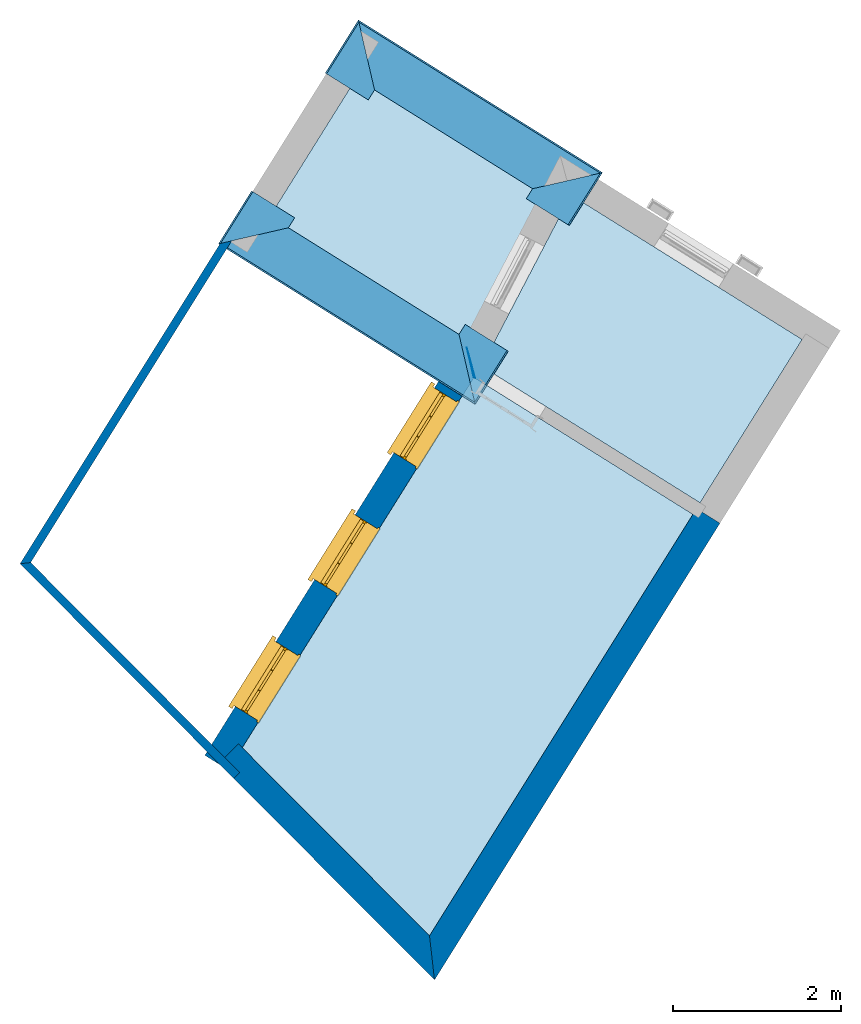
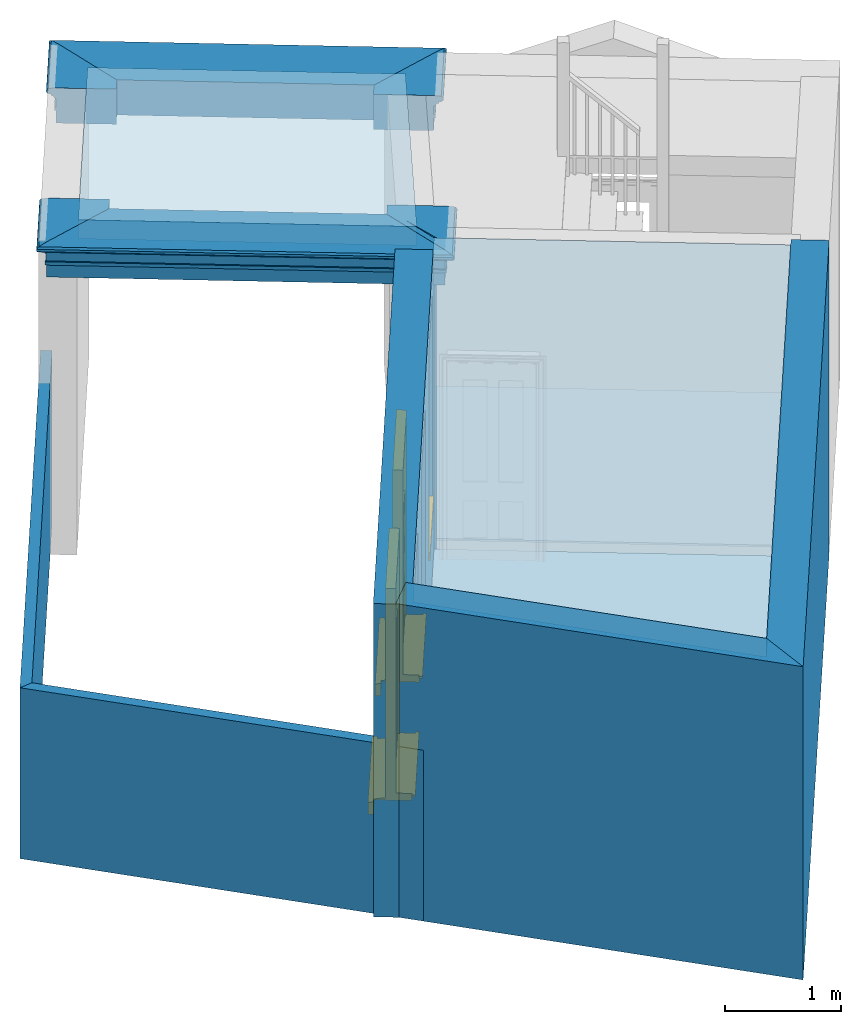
# One storey, part 1 of 5: 6 beams, 6 walls, 4 slabs, 3 windows, 3 openings.
"""IFC4 building model written with IfcOpenShell, lengths in metres."""

from ifc_helpers import new_model, si_unit, frame, origin, origin_with_axes, place, context, subcontext, project, spatial, polyline, outline, extrude, clip, halfspace, faceted_brep, source, transform, mapped, material, layer, layer_set, layer_usage, material_profile, profile_set, profile_usage, type_object, type_shapes, element, fill, save


model = new_model("IFC4")

# Units and contexts
model_context = context("Model", 3, world=origin_with_axes())
body_context = subcontext(model_context, "Body", "Model", "MODEL_VIEW")
ifc_project = project(units=[si_unit("PLANEANGLEUNIT", "RADIAN"), si_unit("MASSUNIT", "GRAM", prefix="KILO"), si_unit("FORCEUNIT", "NEWTON", prefix="KILO"), si_unit("LENGTHUNIT", "METRE"), si_unit("AREAUNIT", "SQUARE_METRE"), si_unit("VOLUMEUNIT", "CUBIC_METRE")], contexts=[model_context, model_context])

# Sites, building, storey
site_1_placement = place(None, origin_with_axes())
site_1 = spatial("IfcSite", under=ifc_project, at=site_1_placement, Name="Tamar")
site_2_placement = place(site_1_placement, origin_with_axes())
site_2 = spatial("IfcSite", under=site_1, at=site_2_placement, Name="Site plot-3", CompositionType="ELEMENT")
building_placement = place(None, origin_with_axes())
building = spatial("IfcBuilding", under=site_2, at=building_placement, Name="Building plot-3", CompositionType="ELEMENT")
storey_placement = place(None, frame((0.0, 0.0, 24.5), z_axis=(0.0, 0.0, 1.0), x_axis=(1.0, 0.0, 0.0)))
storey = spatial("IfcBuildingStorey", under=building, at=storey_placement, Name="plot-3 0", CompositionType="ELEMENT", Elevation=24.5)

# Beams
ifc_material_profile_1 = material_profile(None, outline(polyline([(-0.26, 0.0), (-0.26, -0.37), (0.26, -0.37), (0.26, -0.235), (0.275, -0.235), (0.275, -0.2), (0.26, -0.2), (0.26, -0.11), (0.275, -0.11), (0.278, -0.098), (0.284, -0.089), (0.293, -0.083), (0.305, -0.08), (0.305, -0.065), (0.315, -0.065), (0.326, -0.063), (0.336, -0.056), (0.343, -0.047), (0.345, -0.035), (0.343, -0.023), (0.336, -0.014), (0.326, -0.007), (0.315, -0.005), (0.26, 0.0), (-0.26, 0.0)])))
ifc_profile_set_1 = profile_set([ifc_material_profile_1])
ifc_profile_usage_1 = profile_usage(ifc_profile_set_1)
beam_type_1 = type_object("IfcBeamType", Name="external beam_0", PredefinedType="NOTDEFINED", material=ifc_profile_set_1)
beam_1_placement = place(storey_placement, frame((213.21499929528, 286.80804798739, 3.3), z_axis=(0.53002650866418, 0.847981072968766, 0.0), x_axis=(-0.847981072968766, 0.53002650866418, 0.0)))
element("IfcBeam", 1, at=beam_1_placement, inside=storey, type_object=beam_type_1, material=ifc_profile_usage_1, Name="external beam_0", context=body_context, shape_type="Clipping", body=[
    clip(clip(extrude(outline(polyline([(-0.26, 0.0), (-0.26, -0.37), (0.26, -0.37), (0.26, -0.235), (0.275, -0.235), (0.275, -0.2), (0.26, -0.2), (0.26, -0.11), (0.275, -0.11), (0.278, -0.098), (0.284, -0.089), (0.293, -0.083), (0.305, -0.08), (0.305, -0.065), (0.315, -0.065), (0.326, -0.063), (0.336, -0.056), (0.343, -0.047), (0.345, -0.035), (0.343, -0.023), (0.336, -0.014), (0.326, -0.007), (0.315, -0.005), (0.26, 0.0), (-0.26, 0.0)])), origin_with_axes(), (0.0, 0.0, 1.0), 2.4), halfspace(frame((0.0, 0.0, 1.4), z_axis=(2.48077634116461e-14, 0.0, -1.0), x_axis=(0.0, 1.0, 0.0)), True)), halfspace(frame((0.0, 0.0, 1.0), z_axis=(-0.707106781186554, 0.0, -0.70710678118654), x_axis=(0.0, 1.0, 0.0)), False)),
])
ifc_profile_usage_2 = profile_usage(ifc_profile_set_1)
beam_2_placement = place(storey_placement, frame((217.067121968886, 285.579568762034, 3.3), z_axis=(-0.84798107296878, 0.530026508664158, 0.0), x_axis=(-0.530026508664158, -0.84798107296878, 0.0)))
element("IfcBeam", 2, at=beam_2_placement, inside=storey, type_object=beam_type_1, material=ifc_profile_usage_2, Name="external beam_0", context=body_context, shape_type="Clipping", body=[
    clip(clip(extrude(outline(polyline([(-0.26, 0.0), (-0.26, -0.37), (0.26, -0.37), (0.26, -0.235), (0.275, -0.235), (0.275, -0.2), (0.26, -0.2), (0.26, -0.11), (0.275, -0.11), (0.278, -0.098), (0.284, -0.089), (0.293, -0.083), (0.305, -0.08), (0.305, -0.065), (0.315, -0.065), (0.326, -0.063), (0.336, -0.056), (0.343, -0.047), (0.345, -0.035), (0.343, -0.023), (0.336, -0.014), (0.326, -0.007), (0.315, -0.005), (0.26, 0.0), (-0.26, 0.0)])), origin_with_axes(), (0.0, 0.0, 1.0), 4.91765367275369), halfspace(frame((0.0, 0.0, 3.91765367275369), z_axis=(0.707106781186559, 0.0, -0.707106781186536), x_axis=(0.0, 1.0, 0.0)), True)), halfspace(frame((0.0, 0.0, 1.0), z_axis=(-0.707106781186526, 0.0, -0.707106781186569), x_axis=(0.0, 1.0, 0.0)), False)),
])
ifc_profile_usage_3 = profile_usage(ifc_profile_set_1)
beam_3_placement = place(storey_placement, frame((216.961178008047, 287.296768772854, 3.3), z_axis=(-0.53002650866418, -0.847981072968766, 0.0), x_axis=(0.847981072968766, -0.53002650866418, 0.0)))
element("IfcBeam", 3, at=beam_3_placement, inside=storey, type_object=beam_type_1, material=ifc_profile_usage_3, Name="external beam_0", context=body_context, shape_type="Clipping", body=[
    clip(clip(extrude(outline(polyline([(-0.26, 0.0), (-0.26, -0.37), (0.26, -0.37), (0.26, -0.235), (0.275, -0.235), (0.275, -0.2), (0.26, -0.2), (0.26, -0.11), (0.275, -0.11), (0.278, -0.098), (0.284, -0.089), (0.293, -0.083), (0.305, -0.08), (0.305, -0.065), (0.315, -0.065), (0.326, -0.063), (0.336, -0.056), (0.343, -0.047), (0.345, -0.035), (0.343, -0.023), (0.336, -0.014), (0.326, -0.007), (0.315, -0.005), (0.26, 0.0), (-0.26, 0.0)])), origin_with_axes(), (0.0, 0.0, 1.0), 2.4), halfspace(frame((0.0, 0.0, 1.4), z_axis=(0.707106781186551, 0.0, -0.707106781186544), x_axis=(0.0, 1.0, 0.0)), True)), halfspace(frame((0.0, 0.0, 1.0), z_axis=(2.4141629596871e-14, 0.0, -1.0), x_axis=(0.0, 1.0, 0.0)), False)),
])
ifc_material_profile_2 = material_profile(None, outline(polyline([(-0.26, 0.0), (-0.26, -0.37), (0.26, -0.37), (0.26, -0.235), (0.275, -0.235), (0.275, -0.2), (0.26, -0.2), (0.26, -0.11), (0.275, -0.11), (0.278, -0.098), (0.284, -0.089), (0.293, -0.083), (0.305, -0.08), (0.305, -0.065), (0.315, -0.065), (0.326, -0.063), (0.336, -0.056), (0.343, -0.047), (0.345, -0.035), (0.343, -0.023), (0.336, -0.014), (0.326, -0.007), (0.315, -0.005), (0.26, 0.0), (-0.26, 0.0)])))
ifc_profile_set_2 = profile_set([ifc_material_profile_2])
ifc_profile_usage_4 = profile_usage(ifc_profile_set_2)
beam_type_2 = type_object("IfcBeamType", Name="external beam_0", PredefinedType="NOTDEFINED", material=ifc_profile_set_2)
beam_4_placement = place(storey_placement, frame((217.900929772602, 289.134511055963, 3.3), z_axis=(-0.530026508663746, -0.847981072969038, 0.0), x_axis=(0.847981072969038, -0.530026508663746, 0.0)))
element("IfcBeam", 4, at=beam_4_placement, inside=storey, type_object=beam_type_2, material=ifc_profile_usage_4, Name="external beam_0", context=body_context, shape_type="Clipping", body=[
    clip(clip(extrude(outline(polyline([(-0.26, 0.0), (-0.26, -0.37), (0.26, -0.37), (0.26, -0.235), (0.275, -0.235), (0.275, -0.2), (0.26, -0.2), (0.26, -0.11), (0.275, -0.11), (0.278, -0.098), (0.284, -0.089), (0.293, -0.083), (0.305, -0.08), (0.305, -0.065), (0.315, -0.065), (0.326, -0.063), (0.336, -0.056), (0.343, -0.047), (0.345, -0.035), (0.343, -0.023), (0.336, -0.014), (0.326, -0.007), (0.315, -0.005), (0.26, 0.0), (-0.26, 0.0)])), origin_with_axes(), (0.0, 0.0, 1.0), 2.40000000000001), halfspace(frame((0.0, 0.0, 1.40000000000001), z_axis=(1.60812264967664e-16, 0.0, -1.0), x_axis=(0.0, 1.0, 0.0)), True)), halfspace(frame((0.0, 0.0, 1.0), z_axis=(-0.70710678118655, 0.0, -0.707106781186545), x_axis=(0.0, 1.0, 0.0)), False)),
])
ifc_profile_usage_5 = profile_usage(ifc_profile_set_2)
beam_5_placement = place(storey_placement, frame((214.199035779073, 290.269090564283, 3.3), z_axis=(0.847981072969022, -0.530026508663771, 0.0), x_axis=(0.530026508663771, 0.847981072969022, 0.0)))
element("IfcBeam", 5, at=beam_5_placement, inside=storey, type_object=beam_type_2, material=ifc_profile_usage_5, Name="external beam_0", context=body_context, shape_type="Clipping", body=[
    clip(clip(extrude(outline(polyline([(-0.26, 0.0), (-0.26, -0.37), (0.26, -0.37), (0.26, -0.235), (0.275, -0.235), (0.275, -0.2), (0.26, -0.2), (0.26, -0.11), (0.275, -0.11), (0.278, -0.098), (0.284, -0.089), (0.293, -0.083), (0.305, -0.08), (0.305, -0.065), (0.315, -0.065), (0.326, -0.063), (0.336, -0.056), (0.343, -0.047), (0.345, -0.035), (0.343, -0.023), (0.336, -0.014), (0.326, -0.007), (0.315, -0.005), (0.26, 0.0), (-0.26, 0.0)])), origin_with_axes(), (0.0, 0.0, 1.0), 4.74049325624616), halfspace(frame((0.0, 0.0, 3.74049325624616), z_axis=(0.707106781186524, 0.0, -0.707106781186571), x_axis=(0.0, 1.0, 0.0)), True)), halfspace(frame((0.0, 0.0, 1.0), z_axis=(-0.707106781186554, 0.0, -0.707106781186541), x_axis=(0.0, 1.0, 0.0)), False)),
])
ifc_profile_usage_6 = profile_usage(ifc_profile_set_2)
beam_6_placement = place(storey_placement, frame((214.304979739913, 288.551890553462, 3.3), z_axis=(0.530026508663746, 0.847981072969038, 0.0), x_axis=(-0.847981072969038, 0.530026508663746, 0.0)))
element("IfcBeam", 6, at=beam_6_placement, inside=storey, type_object=beam_type_2, material=ifc_profile_usage_6, Name="external beam_0", context=body_context, shape_type="Clipping", body=[
    clip(clip(extrude(outline(polyline([(-0.26, 0.0), (-0.26, -0.37), (0.26, -0.37), (0.26, -0.235), (0.275, -0.235), (0.275, -0.2), (0.26, -0.2), (0.26, -0.11), (0.275, -0.11), (0.278, -0.098), (0.284, -0.089), (0.293, -0.083), (0.305, -0.08), (0.305, -0.065), (0.315, -0.065), (0.326, -0.063), (0.336, -0.056), (0.343, -0.047), (0.345, -0.035), (0.343, -0.023), (0.336, -0.014), (0.326, -0.007), (0.315, -0.005), (0.26, 0.0), (-0.26, 0.0)])), origin_with_axes(), (0.0, 0.0, 1.0), 2.40000000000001), halfspace(frame((0.0, 0.0, 1.40000000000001), z_axis=(0.707106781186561, 0.0, -0.707106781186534), x_axis=(0.0, 1.0, 0.0)), True)), halfspace(frame((0.0, 0.0, 1.0), z_axis=(-6.12323399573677e-17, 0.0, -1.0), x_axis=(0.0, 1.0, 0.0)), False)),
])

# Slabs
slab_1_placement = place(storey_placement, frame((216.312415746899, 285.956952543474, 3.1)))
element("IfcSlab", 7, at=slab_1_placement, inside=storey, Name="My Slab", ObjectType="Slab", PredefinedType="FLOOR", context=body_context, shape_type="SweptSolid", body=[
    extrude(outline(polyline([(0.0, 0.0), (-2.75923932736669, -4.414463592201), (-0.527781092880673, -6.65516845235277), (2.61166919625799, -1.63241132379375), (0.0, 0.0)])), origin_with_axes(), (0.0, 0.0, 1.0), 0.2),
])
slab_2_placement = place(storey_placement, frame((216.312415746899, 285.956952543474, 0.0)))
element("IfcSlab", 8, at=slab_2_placement, inside=storey, Name="My Slab", ObjectType="Slab", PredefinedType="FLOOR", context=body_context, shape_type="SweptSolid", body=[
    extrude(outline(polyline([(0.0, 0.0), (-2.75923932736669, -4.414463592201), (-0.527781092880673, -6.65516845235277), (2.61166919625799, -1.63241132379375), (0.0, 0.0)])), origin_with_axes(), (0.0, 0.0, 1.0), 0.02),
])
slab_3_placement = place(storey_placement, frame((217.333583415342, 288.215514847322, 3.1)))
element("IfcSlab", 9, at=slab_3_placement, inside=storey, Name="My Slab", ObjectType="Slab", PredefinedType="FLOOR", context=body_context, shape_type="SweptSolid", body=[
    extrude(outline(polyline([(0.0, 0.0), (-2.32896868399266, 1.45571072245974), (-3.54615549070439, -0.49164730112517), (-1.06538868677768, -2.04223871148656), (0.0, 0.0)])), origin_with_axes(), (0.0, 0.0, 1.0), 0.2),
])
slab_4_placement = place(storey_placement, frame((217.469671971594, 288.130453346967, 0.0)))
element("IfcSlab", 10, at=slab_4_placement, inside=storey, Name="My Slab", ObjectType="Slab", PredefinedType="FLOOR", context=body_context, shape_type="SweptSolid", body=[
    extrude(outline(polyline([(0.0, 0.0), (-1.06538868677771, -2.04223871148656), (1.53921721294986, -3.67023515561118), (2.75640401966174, -1.7228771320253), (0.0, 0.0)])), origin_with_axes(), (0.0, 0.0, 1.0), 0.02),
])

# Wall
ifc_material_1 = material(Name="Masonry")
ifc_layer_1 = layer(ifc_material_1, 0.33, ventilated=False)
ifc_layer_set_1 = layer_set([ifc_layer_1], Name="exterior_0.08_0.25")
ifc_layer_usage_1 = layer_usage(ifc_layer_set_1, "AXIS2", "POSITIVE", -0.25)
wall_type_1 = type_object("IfcWallType", Name="exterior_0.08_0.25", PredefinedType="SOLIDWALL", material=ifc_layer_set_1)
wall_1_placement = place(storey_placement, frame((216.299124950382, 286.059601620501, 0.0), z_axis=(0.0, 0.0, 1.0), x_axis=(-0.847981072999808, 0.530026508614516, 0.0)))
element("IfcWall", 11, at=wall_1_placement, inside=storey, type_object=wall_type_1, material=ifc_layer_usage_1, Name="exterior", context=body_context, shape_type="SweptSolid", body=[
    extrude(outline(polyline([(-0.0864787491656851, 0.0799999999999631), (0.270246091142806, -0.249999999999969), (0.264322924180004, -0.250000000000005), (-0.0656770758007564, 0.0799999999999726), (-0.0864787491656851, 0.0799999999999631)])), origin_with_axes(), (0.0, 0.0, 1.0), 3.3),
])

# Wall, openings, windows
wall_2_placement = place(storey_placement, frame((216.286979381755, 286.067193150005, 0.0), z_axis=(0.0, 0.0, 1.0), x_axis=(-0.530026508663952, -0.847981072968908, 0.0)))
wall_2 = element("IfcWall", 12, at=wall_2_placement, inside=storey, type_object=wall_type_1, material=ifc_layer_usage_1, Name="exterior", context=body_context, shape_type="SweptSolid", body=[
    extrude(outline(polyline([(0.0799999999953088, 0.0799999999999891), (-0.24999999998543, -0.25000000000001), (5.59935975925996, -0.249999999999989), (5.59935975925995, 0.0800000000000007), (0.0799999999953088, 0.0799999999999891)])), origin_with_axes(), (0.0, 0.0, 1.0), 3.3),
])
opening_1_placement = place(wall_2_placement, frame((0.436559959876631, 0.0, 0.75)))
opening_1 = element("IfcOpeningElement", 13, at=opening_1_placement, cuts=wall_2, Name="My Opening", ObjectType="Opening", context=body_context, shape_type="SweptSolid", body=[
    extrude(outline(polyline([(0.0, -0.270000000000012), (0.910000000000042, -0.270000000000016), (0.910000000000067, 1.10000000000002), (2.54241072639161e-14, 1.10000000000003), (0.0, -0.270000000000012)])), origin_with_axes(), (0.0, 0.0, 1.0), 2.23),
])
opening_2_placement = place(wall_2_placement, frame((2.21967987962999, 0.0, 0.75)))
opening_2 = element("IfcOpeningElement", 14, at=opening_2_placement, cuts=wall_2, Name="My Opening", ObjectType="Opening", context=body_context, shape_type="SweptSolid", body=[
    extrude(outline(polyline([(0.0, -0.269999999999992), (0.909999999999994, -0.270000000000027), (0.91000000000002, 1.10000000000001), (2.57571741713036e-14, 1.10000000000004), (0.0, -0.269999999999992)])), origin_with_axes(), (0.0, 0.0, 1.0), 2.23),
])
opening_3_placement = place(wall_2_placement, frame((4.00279979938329, 0.0, 0.75)))
opening_3 = element("IfcOpeningElement", 15, at=opening_3_placement, cuts=wall_2, Name="My Opening", ObjectType="Opening", context=body_context, shape_type="SweptSolid", body=[
    extrude(outline(polyline([(0.0, -0.270000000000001), (0.910000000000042, -0.270000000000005), (0.910000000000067, 1.10000000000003), (2.57571741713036e-14, 1.10000000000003), (0.0, -0.270000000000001)])), origin_with_axes(), (0.0, 0.0, 1.0), 2.23),
])
window_type = type_object("IfcWindowType", Name="sash_big_taller", PartitioningType="DOUBLE_PANEL_HORIZONTAL", PredefinedType="NOTDEFINED")
shared_shape = source(origin(), body_context, "Body", "Brep", [
    faceted_brep([(0.033125, 0.145, 1.385209), (0.01, 0.145, 1.385209), (0.033125, 0.145, 1.786042), (0.876875, 0.145, 1.385209), (0.876875, 0.145, 1.786042), (0.9, 0.145, 1.385209), (0.876875, 0.145, 1.796042), (0.876875, 0.145, 2.196875), (0.9, 0.145, 2.22), (0.033125, 0.145, 2.196875), (0.033125, 0.145, 1.796042), (0.01, 0.145, 2.22), (0.876875, 0.115, 1.786042), (0.876875, 0.115, 1.385209), (0.9, 0.115, 1.347084), (0.033125, 0.115, 2.196875), (0.01, 0.115, 2.22), (0.033125, 0.115, 1.796042), (0.01, 0.115, 1.347084), (0.033125, 0.115, 1.385209), (0.033125, 0.115, 1.786042), (0.876875, 0.115, 2.196875), (0.876875, 0.115, 1.796042), (0.9, 0.115, 2.22), (0.033125, 0.145, 1.347084), (0.01, 0.145, 1.347084), (0.033125, 0.145, 0.94625), (0.876875, 0.145, 1.347084), (0.876875, 0.145, 0.94625), (0.9, 0.145, 1.347084), (0.876875, 0.145, 0.52625), (0.876875, 0.145, 0.125417), (0.9, 0.145, 0.077167), (0.033125, 0.145, 0.125417), (0.033125, 0.145, 0.52625), (0.01, 0.145, 0.077167), (-0.0425, 0.0, 0.01), (-0.0425, -0.05, 0.001667), (0.0, 0.0, 0.01), (0.9525, 0.0, 0.01), (0.91, 0.0, 0.01), (0.9525, -0.05, 0.001667), (-0.02, 0.33, 0.077167), (0.0, 0.33, 0.077167), (-0.02, 0.36, 0.077167), (0.0, 0.19, 0.077167), (0.01, 0.19, 0.077167), (0.91, 0.19, 0.077167), (0.91, 0.33, 0.077167), (0.9, 0.19, 0.077167), (0.93, 0.33, 0.077167), (0.93, 0.36, 0.077167), (0.01, 0.175, 1.385209), (0.9, 0.175, 1.385209), (0.876875, 0.175, 0.125417), (0.876875, 0.175, 0.52625), (0.9, 0.175, 0.077167), (0.876875, 0.175, 0.94625), (0.876875, 0.175, 1.347084), (0.033125, 0.175, 0.125417), (0.01, 0.175, 0.077167), (0.033125, 0.175, 0.52625), (0.033125, 0.175, 1.347084), (0.033125, 0.175, 0.94625), (-0.02, 0.33, 0.052167), (-0.02, 0.36, 0.052167), (0.93, 0.36, 0.052167), (0.93, 0.33, 0.052167), (0.91, 0.33, 0.052167), (0.0, 0.33, 0.052167), (0.91, 0.1, 0.026667), (0.0, 0.1, 0.026667), (-0.0425, -0.05, -0.123333), (0.9525, -0.05, -0.123333), (-0.0425, 0.0, -0.123333), (0.9525, 0.0, -0.123333), (0.01, 0.19, 2.22), (0.9, 0.19, 2.22), (0.0, 0.19, 2.23), (0.91, 0.19, 2.23), (0.01, 0.1, 0.077167), (0.9, 0.1, 0.077167), (0.592292, 0.145, 0.125417), (0.592292, 0.175, 0.125417), (0.317708, 0.175, 0.125417), (0.317708, 0.145, 0.125417), (0.592292, 0.145, 0.53625), (0.317708, 0.145, 0.53625), (0.317708, 0.145, 0.52625), (0.592292, 0.145, 0.52625), (0.592292, 0.175, 0.53625), (0.317708, 0.175, 0.53625), (0.592292, 0.115, 1.796042), (0.592292, 0.145, 1.796042), (0.317708, 0.145, 1.796042), (0.317708, 0.115, 1.796042), (0.317708, 0.115, 1.786042), (0.592292, 0.115, 1.786042), (0.317708, 0.145, 1.786042), (0.592292, 0.145, 1.786042), (0.602292, 0.115, 1.786042), (0.592292, 0.115, 1.385209), (0.602292, 0.115, 1.385209), (0.602292, 0.145, 1.385209), (0.592292, 0.145, 1.385209), (0.602292, 0.145, 1.786042), (0.876875, 0.145, 0.53625), (0.876875, 0.175, 0.53625), (0.602292, 0.175, 0.53625), (0.602292, 0.145, 0.53625), (0.317708, 0.175, 0.52625), (0.307708, 0.175, 0.125417), (0.307708, 0.175, 0.52625), (0.602292, 0.175, 0.52625), (0.602292, 0.175, 0.125417), (0.592292, 0.175, 0.52625), (0.307708, 0.175, 0.53625), (0.033125, 0.175, 0.53625), (0.317708, 0.175, 1.347084), (0.317708, 0.175, 0.94625), (0.307708, 0.175, 0.94625), (0.307708, 0.175, 1.347084), (0.602292, 0.175, 1.347084), (0.602292, 0.175, 0.94625), (0.592292, 0.175, 0.94625), (0.592292, 0.175, 1.347084), (0.307708, 0.145, 0.52625), (0.307708, 0.145, 0.125417), (0.307708, 0.145, 0.53625), (0.033125, 0.145, 0.53625), (0.307708, 0.145, 1.347084), (0.307708, 0.145, 0.94625), (0.592292, 0.145, 1.347084), (0.592292, 0.145, 0.94625), (0.317708, 0.145, 0.94625), (0.317708, 0.145, 1.347084), (0.602292, 0.145, 0.94625), (0.602292, 0.145, 1.347084), (0.602292, 0.145, 0.52625), (0.602292, 0.145, 0.125417), (0.307708, 0.115, 1.796042), (0.307708, 0.115, 1.786042), (0.307708, 0.115, 1.385209), (0.317708, 0.115, 1.385209), (0.317708, 0.115, 2.196875), (0.307708, 0.115, 2.196875), (0.602292, 0.115, 2.196875), (0.592292, 0.115, 2.196875), (0.602292, 0.115, 1.796042), (0.602292, 0.145, 1.796042), (0.307708, 0.145, 1.796042), (0.307708, 0.145, 2.196875), (0.317708, 0.145, 2.196875), (0.592292, 0.145, 2.196875), (0.602292, 0.145, 2.196875), (0.307708, 0.145, 1.786042), (0.317708, 0.145, 1.385209), (0.307708, 0.145, 1.385209), (0.876875, 0.175, 0.93625), (0.033125, 0.175, 0.93625), (0.033125, 0.145, 0.93625), (0.876875, 0.145, 0.93625), (0.91, 0.1, 2.23), (0.9, 0.1, 2.22), (0.01, 0.1, 2.22), (0.0, 0.1, 2.23), (0.91, 0.0, 0.0), (0.0, 0.0, 0.0), (0.91, 0.33, 0.0), (0.0, 0.33, 0.0), (0.317708, 0.145, 0.93625), (0.592292, 0.145, 0.93625), (0.317708, 0.175, 0.93625), (0.307708, 0.175, 0.93625), (0.602292, 0.175, 0.93625), (0.592292, 0.175, 0.93625), (0.307708, 0.145, 0.93625), (0.602292, 0.145, 0.93625)], [[[0, 1, 2]], [[3, 4, 5]], [[6, 7, 8]], [[9, 10, 11]], [[12, 13, 14]], [[15, 16, 17]], [[18, 19, 20]], [[21, 22, 23]], [[24, 25, 26]], [[27, 28, 29]], [[30, 31, 32]], [[33, 34, 35]], [[14, 27, 29]], [[25, 24, 18]], [[36, 37, 38]], [[39, 40, 41]], [[42, 43, 44]], [[45, 46, 43]], [[47, 48, 49]], [[50, 51, 48]], [[1, 0, 52]], [[5, 53, 3]], [[54, 55, 56]], [[57, 58, 53]], [[59, 60, 61]], [[62, 63, 52]], [[48, 43, 46, 49]], [[51, 44, 43, 48]], [[64, 42, 44, 65]], [[65, 44, 51, 66]], [[66, 51, 50, 67]], [[65, 66, 68, 69]], [[60, 56, 49, 46]], [[70, 71, 38, 40]], [[37, 41, 40, 38]], [[37, 72, 73, 41]], [[74, 75, 73, 72]], [[8, 11, 76, 77]], [[76, 78, 79, 77]], [[32, 35, 80, 81]], [[81, 80, 71, 70]], [[82, 83, 84, 85]], [[86, 87, 88, 89]], [[86, 90, 91, 87]], [[92, 93, 94, 95]], [[92, 95, 96, 97]], [[96, 98, 99, 97]], [[100, 97, 101, 102]], [[103, 104, 99, 105]], [[97, 99, 104, 101]], [[102, 103, 105, 100]], [[106, 107, 108, 109]], [[110, 84, 111, 112]], [[113, 114, 83, 115]], [[116, 112, 61, 117]], [[90, 115, 110, 91]], [[118, 119, 120, 121]], [[122, 123, 124, 125]], [[113, 108, 107, 55]], [[126, 112, 111, 127]], [[34, 61, 112, 126]], [[89, 115, 83, 82]], [[88, 110, 115, 89]], [[85, 84, 110, 88]], [[128, 116, 117, 129]], [[130, 121, 120, 131]], [[132, 125, 124, 133]], [[134, 119, 118, 135]], [[136, 123, 122, 137]], [[138, 113, 55, 30]], [[139, 114, 113, 138]], [[138, 30, 106, 109]], [[88, 126, 127, 85]], [[138, 89, 82, 139]], [[137, 132, 133, 136]], [[128, 129, 34, 126]], [[135, 130, 131, 134]], [[140, 17, 20, 141]], [[96, 141, 142, 143]], [[144, 145, 140, 95]], [[146, 147, 92, 148]], [[100, 12, 22, 148]], [[149, 6, 4, 105]], [[94, 150, 151, 152]], [[149, 93, 153, 154]], [[99, 98, 94, 93]], [[155, 2, 10, 150]], [[156, 157, 155, 98]], [[141, 155, 157, 142]], [[20, 2, 155, 141]], [[143, 156, 98, 96]], [[140, 150, 10, 17]], [[145, 151, 150, 140]], [[147, 153, 93, 92]], [[95, 94, 152, 144]], [[22, 6, 149, 148]], [[148, 149, 154, 146]], [[100, 105, 4, 12]], [[109, 86, 89, 138]], [[108, 113, 115, 90]], [[91, 110, 112, 116]], [[87, 128, 126, 88]], [[97, 100, 148, 92]], [[141, 96, 95, 140]], [[98, 155, 150, 94]], [[105, 99, 93, 149]], [[143, 101, 104, 156]], [[135, 118, 125, 132]], [[144, 152, 153, 147]], [[127, 111, 59, 33]], [[15, 9, 151, 145]], [[146, 154, 7, 21]], [[31, 54, 114, 139]], [[36, 74, 72, 37]], [[39, 41, 73, 75]], [[18, 14, 101, 143]], [[23, 16, 144, 147]], [[83, 56, 60, 84]], [[52, 53, 125, 118]], [[53, 52, 156, 104]], [[11, 8, 153, 152]], [[14, 18, 135, 132]], [[2, 1, 11, 10]], [[8, 5, 4, 6]], [[57, 53, 56, 158]], [[60, 52, 63, 159]], [[26, 25, 35, 160]], [[32, 29, 28, 161]], [[14, 23, 22, 12]], [[18, 20, 17, 16]], [[19, 0, 2, 20]], [[17, 10, 9, 15]], [[12, 4, 3, 13]], [[21, 7, 6, 22]], [[27, 58, 57, 28]], [[30, 55, 54, 31]], [[33, 59, 61, 34]], [[26, 63, 62, 24]], [[5, 8, 77, 53]], [[76, 11, 1, 52]], [[46, 45, 78, 76]], [[49, 77, 79, 47]], [[70, 162, 163, 81]], [[71, 80, 164, 165]], [[19, 142, 157, 0]], [[102, 13, 3, 103]], [[121, 130, 24, 62]], [[29, 32, 81, 14]], [[80, 35, 25, 18]], [[60, 46, 76, 52]], [[77, 49, 56, 53]], [[23, 14, 81, 163]], [[16, 164, 80, 18]], [[35, 85, 127]], [[127, 33, 35]], [[139, 82, 32]], [[32, 31, 139]], [[32, 82, 85, 35]], [[102, 101, 14]], [[14, 13, 102]], [[18, 143, 142]], [[142, 19, 18]], [[146, 21, 23]], [[23, 147, 146]], [[16, 15, 145]], [[145, 144, 16]], [[11, 152, 151]], [[151, 9, 11]], [[154, 153, 8]], [[8, 7, 154]], [[23, 163, 164, 16]], [[162, 165, 164, 163]], [[52, 118, 121]], [[121, 62, 52]], [[125, 53, 122]], [[58, 122, 53]], [[27, 137, 122, 58]], [[56, 83, 114]], [[114, 54, 56]], [[111, 84, 60]], [[60, 59, 111]], [[137, 27, 14]], [[14, 132, 137]], [[130, 135, 18]], [[18, 24, 130]], [[157, 156, 52]], [[52, 0, 157]], [[103, 3, 53]], [[53, 104, 103]], [[79, 78, 165, 162]], [[78, 45, 71, 165]], [[162, 70, 47, 79]], [[166, 75, 74, 167]], [[68, 66, 67]], [[48, 68, 67, 50]], [[69, 64, 65]], [[42, 64, 69, 43]], [[69, 68, 168, 169]], [[70, 68, 48, 47]], [[166, 168, 68, 70]], [[43, 69, 71, 45]], [[69, 169, 167, 71]], [[168, 166, 167, 169]], [[38, 167, 74, 36]], [[71, 167, 38]], [[39, 75, 166, 40]], [[40, 166, 70]], [[133, 134, 170, 171]], [[133, 124, 119, 134]], [[28, 57, 123, 136]], [[172, 91, 116, 173]], [[174, 108, 90, 175]], [[120, 173, 159, 63]], [[124, 175, 172, 119]], [[174, 123, 57, 158]], [[176, 173, 116, 128]], [[160, 159, 173, 176]], [[171, 175, 90, 86]], [[170, 172, 175, 171]], [[87, 91, 172, 170]], [[131, 120, 63, 26]], [[177, 174, 158, 161]], [[109, 108, 174, 177]], [[177, 161, 28, 136]], [[170, 176, 128, 87]], [[177, 171, 86, 109]], [[131, 26, 160, 176]], [[136, 133, 171, 177]], [[123, 174, 175, 124]], [[119, 172, 173, 120]], [[134, 131, 176, 170]], [[129, 117, 159, 160]], [[161, 158, 107, 106]], [[35, 34, 129]], [[35, 129, 160]], [[32, 106, 30]], [[32, 161, 106]], [[56, 55, 107]], [[56, 107, 158]], [[60, 117, 61]], [[60, 159, 117]]]),
])
type_shapes(window_type, [shared_shape])
window_1_placement = place(storey_placement, frame((215.826636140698, 285.840105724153, 0.75), z_axis=(0.0, 0.0, 1.0), x_axis=(-0.482324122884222, -0.77166277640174, 0.0)))
window_1 = element("IfcWindow", 16, at=window_1_placement, inside=storey, type_object=window_type, Name="bedroom sahn window", OverallHeight=2.23, OverallWidth=0.91, context=body_context, shape_type="MappedRepresentation", body=[
    mapped(shared_shape, transform((0.0, 0.0, 0.0), scale=1.0)),
])
fill(opening_1, window_1)
window_2_placement = place(storey_placement, frame((214.881535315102, 284.328053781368, 0.75), z_axis=(0.0, 0.0, 1.0), x_axis=(-0.482324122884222, -0.771662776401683, 0.0)))
window_2 = element("IfcWindow", 17, at=window_2_placement, inside=storey, type_object=window_type, Name="bedroom sahn window", OverallHeight=2.23, OverallWidth=0.91, context=body_context, shape_type="MappedRepresentation", body=[
    mapped(shared_shape, transform((0.0, 0.0, 0.0), scale=1.0)),
])
fill(opening_2, window_2)
window_3_placement = place(storey_placement, frame((213.936434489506, 282.816001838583, 0.75), z_axis=(0.0, 0.0, 1.0), x_axis=(-0.482324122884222, -0.77166277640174, 0.0)))
window_3 = element("IfcWindow", 18, at=window_3_placement, inside=storey, type_object=window_type, Name="bedroom sahn window", OverallHeight=2.23, OverallWidth=0.91, context=body_context, shape_type="MappedRepresentation", body=[
    mapped(shared_shape, transform((0.0, 0.0, 0.0), scale=1.0)),
])
fill(opening_3, window_3)

# Walls
ifc_material_2 = material(Name="Masonry")
ifc_layer_2 = layer(ifc_material_2, 0.33, ventilated=False)
ifc_layer_set_2 = layer_set([ifc_layer_2], Name="party_0.08_0.25")
ifc_layer_usage_2 = layer_usage(ifc_layer_set_2, "AXIS2", "POSITIVE", -0.25)
wall_type_2 = type_object("IfcWallType", Name="party_0.08_0.25", PredefinedType="SOLIDWALL", material=ifc_layer_set_2)
wall_3_placement = place(storey_placement, frame((213.451676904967, 281.531037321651, 0.0), z_axis=(0.0, 0.0, 1.0), x_axis=(0.705643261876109, -0.70856727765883, 0.0)))
element("IfcWall", 19, at=wall_3_placement, inside=storey, type_object=wall_type_2, material=ifc_layer_usage_2, Name="party", context=body_context, shape_type="SweptSolid", body=[
    extrude(outline(polyline([(1.14801637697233e-14, 0.0800000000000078), (-1.60331358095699e-14, -0.249999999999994), (3.6415061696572, -0.250000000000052), (3.22581180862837, 0.0799999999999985), (1.14801637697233e-14, 0.0800000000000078)])), origin_with_axes(), (0.0, 0.0, 1.0), 3.3),
])
wall_4_placement = place(storey_placement, frame((215.799060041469, 279.1739271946, 0.0), z_axis=(0.0, 0.0, 1.0), x_axis=(0.530026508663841, 0.847981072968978, 0.0)))
element("IfcWall", 20, at=wall_4_placement, inside=storey, type_object=wall_type_2, material=ifc_layer_usage_2, Name="party", context=body_context, shape_type="SweptSolid", body=[
    extrude(outline(polyline([(0.100774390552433, 0.0800000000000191), (-0.314919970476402, -0.25000000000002), (6.10396924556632, -0.250000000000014), (6.10396924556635, 0.0799999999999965), (0.100774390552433, 0.0800000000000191)])), origin_with_axes(), (0.0, 0.0, 1.0), 3.3),
])
ifc_material_3 = material(Name="Masonry")
ifc_layer_3 = layer(ifc_material_3, 0.1, ventilated=False)
ifc_layer_set_3 = layer_set([ifc_layer_3], Name="fence_-0.15_0.25")
ifc_layer_usage_3 = layer_usage(ifc_layer_set_3, "AXIS2", "POSITIVE", -0.25)
wall_type_3 = type_object("IfcWallType", Name="fence_-0.15_0.25", PredefinedType="SOLIDWALL", material=ifc_layer_set_3)
wall_5_placement = place(storey_placement, frame((213.677187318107, 287.698431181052, 0.0), z_axis=(0.0, 0.0, 1.0), x_axis=(-0.530026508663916, -0.847981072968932, 0.0)))
element("IfcWall", 21, at=wall_5_placement, inside=storey, type_object=wall_type_3, material=ifc_layer_usage_3, Name="fence", context=body_context, shape_type="SweptSolid", body=[
    extrude(outline(polyline([(-0.249999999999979, -0.149999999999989), (-0.249999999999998, -0.249999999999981), (4.83099517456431, -0.249999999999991), (4.75160992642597, -0.150000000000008), (-0.249999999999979, -0.149999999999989)])), origin_with_axes(), (0.0, 0.0, 1.0), 1.8),
])
wall_6_placement = place(storey_placement, frame((211.221822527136, 283.770131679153, 0.0), z_axis=(0.0, 0.0, 1.0), x_axis=(0.70564326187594, -0.708567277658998, 0.0)))
element("IfcWall", 22, at=wall_6_placement, inside=storey, type_object=wall_type_3, material=ifc_layer_usage_3, Name="fence", context=body_context, shape_type="SweptSolid", body=[
    extrude(outline(polyline([(-0.119077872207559, -0.150000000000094), (-0.198463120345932, -0.25000000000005), (3.41003070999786, -0.250000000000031), (3.41003070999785, -0.150000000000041), (-0.119077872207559, -0.150000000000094)])), origin_with_axes(), (0.0, 0.0, 1.0), 1.8),
])

save(model, "model.ifc")
